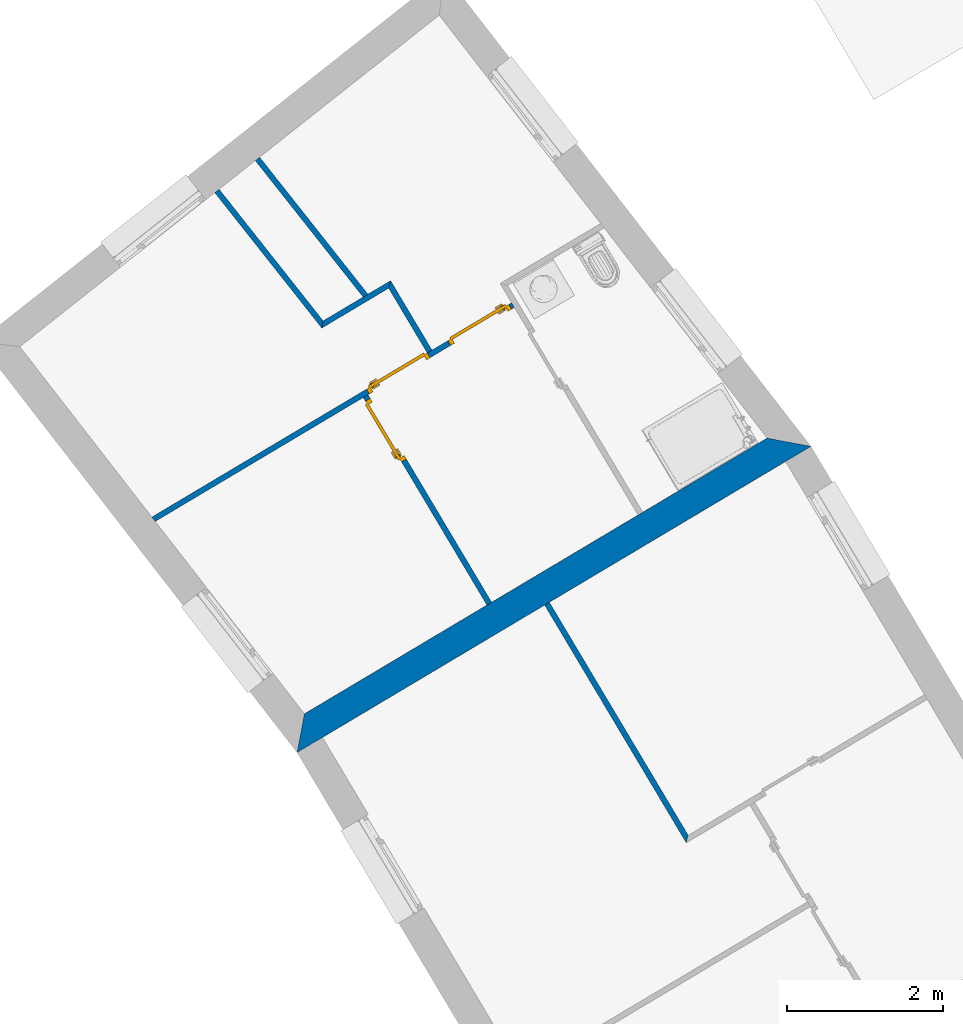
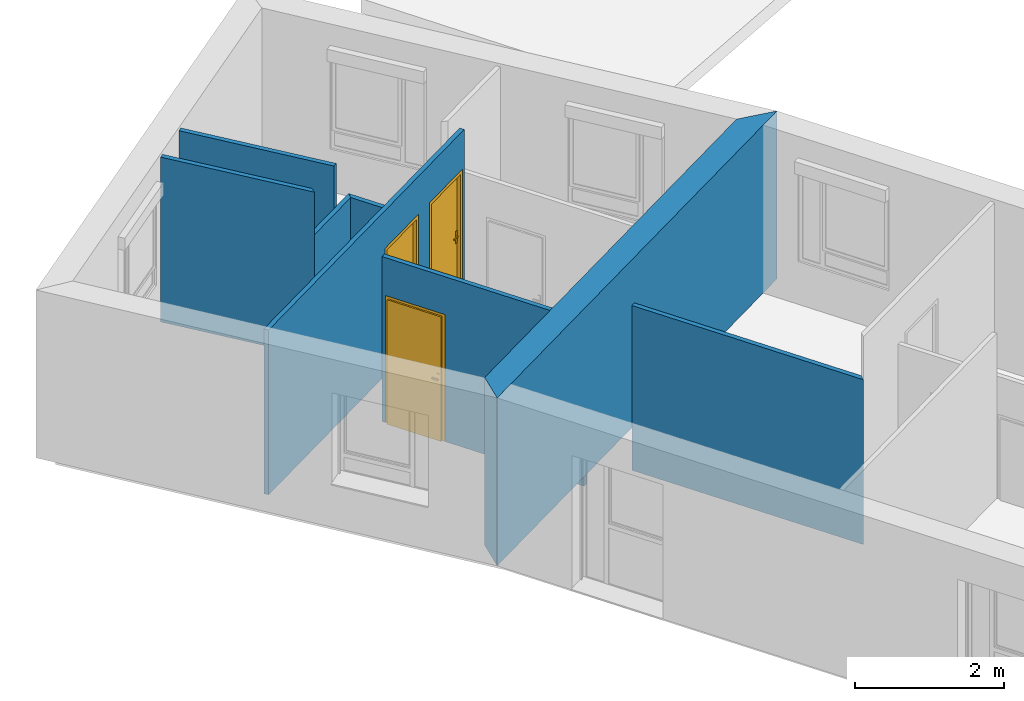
# One storey, part 41 of 121: 8 walls, 3 doors, 3 openings.
"""IFC2X3 building model written with IfcOpenShell, lengths in metres."""

from ifc_helpers import new_model, entity, si_unit, converted_unit, derived_unit, money_unit, direction, frame, origin_with_axes, origin_2d_with_axis, place, context, subcontext, project, spatial, polyline, rectangle, outline, extrude, faceted_brep, source, transform, mapped, material, layer, layer_set, layer_usage, type_object, element, fill, save


model = new_model("IFC2X3")

# Units and contexts
model_context = context("Model", 3, precision=1e-05, world=origin_with_axes(), true_north=direction((0.0, 1.0)))
body_context = subcontext(model_context, "Body", "Model", "MODEL_VIEW")
ifc_project = project(units=[si_unit("LENGTHUNIT", "METRE"), si_unit("AREAUNIT", "SQUARE_METRE"), si_unit("VOLUMEUNIT", "CUBIC_METRE"), converted_unit("PLANEANGLEUNIT", "DEGREE", entity("IfcPlaneAngleMeasure", 0.0174532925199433), si_unit("PLANEANGLEUNIT", "RADIAN"), dimensions=[0, 0, 0, 0, 0, 0, 0]), money_unit("CHF"), converted_unit("TIMEUNIT", "Year", entity("IfcTimeMeasure", 31557600.0), si_unit("TIMEUNIT", "SECOND"), dimensions=[0, 0, 1, 0, 0, 0, 0]), si_unit("MASSUNIT", "GRAM", prefix="KILO"), si_unit("THERMODYNAMICTEMPERATUREUNIT", "DEGREE_CELSIUS"), si_unit("LUMINOUSINTENSITYUNIT", "LUMEN"), si_unit("ENERGYUNIT", "JOULE", prefix="MEGA"), derived_unit("THERMALCONDUCTANCEUNIT", [(si_unit("POWERUNIT", "WATT"), 1), (si_unit("LENGTHUNIT", "METRE"), -1), (si_unit("THERMODYNAMICTEMPERATUREUNIT", "KELVIN"), -1)]), derived_unit("SPECIFICHEATCAPACITYUNIT", [(si_unit("ENERGYUNIT", "JOULE"), 1), (si_unit("MASSUNIT", "GRAM", prefix="KILO"), -1), (si_unit("THERMODYNAMICTEMPERATUREUNIT", "KELVIN"), -1)]), derived_unit("MASSDENSITYUNIT", [(si_unit("MASSUNIT", "GRAM", prefix="KILO"), 1), (si_unit("VOLUMEUNIT", "CUBIC_METRE"), -1)])], contexts=[model_context])

# Site, building, storey
site_placement = place(None, origin_with_axes())
site = spatial("IfcSite", under=ifc_project, at=site_placement, Name="Site", CompositionType="ELEMENT")
building_placement = place(site_placement, origin_with_axes())
building = spatial("IfcBuilding", under=site, at=building_placement, Name="Bâtiment", CompositionType="ELEMENT")
storey_placement = place(building_placement, frame((0.0, 0.0, 2.75), z_axis=(0.0, 0.0, 1.0), x_axis=(1.0, 0.0, 0.0)))
storey = spatial("IfcBuildingStorey", under=building, at=storey_placement, Name="Etage 1", CompositionType="ELEMENT", Elevation=2.75)

# Wall, openings, doors
ifc_material_1 = material(Name="Hachure solide 268963992")
ifc_layer_1 = layer(ifc_material_1, 0.07, ventilated="UNKNOWN")
ifc_layer_set_1 = layer_set([ifc_layer_1], Name="Cloison 70 0826278243")
ifc_layer_usage_1 = layer_usage(ifc_layer_set_1, "AXIS2", "POSITIVE", 0.0)
wall_type_1 = type_object("IfcWallType", Name="Cloison 70 0826278243 70", PredefinedType="NOTDEFINED")
wall_1_placement = place(storey_placement, frame((9536.29459067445, -1044.430703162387, 57.7), z_axis=(0.0, 0.0, 1.0), x_axis=(0.8590867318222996, 0.5118300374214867, 0.0)))
wall_1 = element("IfcWallStandardCase", 1, at=wall_1_placement, inside=storey, type_object=wall_type_1, material=ifc_layer_usage_1, Name="Mur-150", context=body_context, shape_type="SweptSolid", body=[
    extrude(outline(polyline([(0.3828564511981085, 0.0), (5.757966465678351, 0.0), (5.757966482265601, 0.06999999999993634), (0.3742574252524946, 0.06999999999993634), (0.3828564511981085, 0.0)])), origin_with_axes(), (0.0, 0.0, 1.0), 2.7),
])
opening_1_placement = place(wall_1_placement, frame((4.041051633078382, 0.0, 0.0), z_axis=(0.0, 0.0, 1.0), x_axis=(1.0, 0.0, 0.0)))
opening_1 = element("IfcOpeningElement", 2, at=opening_1_placement, cuts=wall_1, Name="Por-304", context=body_context, shape_type="SweptSolid", body=[
    extrude(rectangle(XDim=0.9099999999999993, YDim=2.079999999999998, at=origin_2d_with_axis()), frame((0.0, -0.07000000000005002, 1.039999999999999), z_axis=(0.0, 1.0, 0.0), x_axis=(1.0, 0.0, 0.0)), (0.0, 0.0, 1.0), 0.14),
])
opening_2_placement = place(wall_1_placement, frame((5.260602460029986, 0.0, 0.0), z_axis=(0.0, 0.0, 1.0), x_axis=(1.0, 0.0, 0.0)))
opening_2 = element("IfcOpeningElement", 3, at=opening_2_placement, cuts=wall_1, Name="Por-304", context=body_context, shape_type="SweptSolid", body=[
    extrude(rectangle(XDim=0.9099999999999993, YDim=2.079999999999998, at=origin_2d_with_axis()), frame((0.0, -0.07000000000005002, 1.039999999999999), z_axis=(0.0, -1.0, 0.0), x_axis=(-1.0, 0.0, 0.0)), (0.0, 0.0, -1.0), 0.14),
])
door_style = type_object("IfcDoorStyle", Name="Porte_1v", ConstructionType="NOTDEFINED", OperationType="NOTDEFINED", ParameterTakesPrecedence=False, Sizeable=False)
shared_shape_1 = source(origin_with_axes(), body_context, "Body", "Brep", [
    faceted_brep([(0.455, 0.0, 0.0), (0.415, 0.0, 0.0), (0.415, 0.0, 2.04), (-0.415, 0.0, 2.04), (-0.415, 0.0, 0.0), (-0.455, 0.0, 0.0), (-0.455, 0.0, 2.08), (0.455, 0.0, 2.08), (0.455, -0.07, 0.0), (0.4, -0.07, 0.0), (0.4, -0.015, 0.0), (0.415, -0.015, 0.0), (0.415, -0.015, 2.04), (-0.415, -0.015, 2.04), (-0.415, -0.015, 0.0), (-0.4, -0.015, 0.0), (-0.4, -0.07, 0.0), (-0.455, -0.07, 0.0), (-0.455, -0.07, 2.08), (0.455, -0.07, 2.08), (-0.4, -0.07, 2.025), (0.4, -0.07, 2.025), (0.4, -0.015, 2.025), (-0.4, -0.015, 2.025)], [[[0, 1, 2, 3, 4, 5, 6, 7]], [[0, 8, 9, 10, 11, 1]], [[1, 11, 12, 2]], [[2, 12, 13, 3]], [[3, 13, 14, 4]], [[5, 4, 14, 15, 16, 17]], [[18, 6, 5, 17]], [[19, 7, 6, 18]], [[8, 0, 7, 19]], [[9, 8, 19, 18, 17, 16, 20, 21]], [[10, 9, 21, 22]], [[11, 10, 22, 23, 15, 14, 13, 12]], [[23, 20, 16, 15]], [[22, 21, 20, 23]]]),
    faceted_brep([(-0.35, -0.015, 0.9), (-0.39, -0.015, 0.9), (-0.39, -0.015, 1.1), (-0.35, -0.015, 1.1), (-0.35, -0.025, 0.9), (-0.39, -0.025, 0.9), (-0.39, -0.025, 1.1), (-0.35, -0.025, 1.1)], [[[0, 1, 2, 3]], [[1, 0, 4, 5]], [[2, 1, 5, 6]], [[3, 2, 6, 7]], [[0, 3, 7, 4]], [[5, 4, 7, 6]]]),
    faceted_brep([(-0.28, -0.025, 1.0), (-0.38, -0.025, 1.0), (-0.38, -0.025, 1.02), (-0.28, -0.025, 1.02), (-0.28, -0.045, 1.0), (-0.38, -0.045, 1.0), (-0.38, -0.045, 1.02), (-0.28, -0.045, 1.02)], [[[0, 1, 2, 3]], [[1, 0, 4, 5]], [[2, 1, 5, 6]], [[3, 2, 6, 7]], [[0, 3, 7, 4]], [[5, 4, 7, 6]]]),
    faceted_brep([(-0.35, 0.035, 0.9), (-0.39, 0.035, 0.9), (-0.39, 0.035, 1.1), (-0.35, 0.035, 1.1), (-0.35, 0.025, 0.9), (-0.39, 0.025, 0.9), (-0.39, 0.025, 1.1), (-0.35, 0.025, 1.1)], [[[0, 1, 2, 3]], [[1, 0, 4, 5]], [[2, 1, 5, 6]], [[3, 2, 6, 7]], [[0, 3, 7, 4]], [[5, 4, 7, 6]]]),
    faceted_brep([(-0.28, 0.05500000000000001, 1.0), (-0.38, 0.05500000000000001, 1.0), (-0.38, 0.05500000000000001, 1.02), (-0.28, 0.05500000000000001, 1.02), (-0.28, 0.035, 1.0), (-0.38, 0.035, 1.0), (-0.38, 0.035, 1.02), (-0.28, 0.035, 1.02)], [[[0, 1, 2, 3]], [[1, 0, 4, 5]], [[2, 1, 5, 6]], [[3, 2, 6, 7]], [[0, 3, 7, 4]], [[5, 4, 7, 6]]]),
    faceted_brep([(-0.415, 0.025, 0.0), (0.415, 0.025, 0.0), (0.415, -0.015, 0.0), (-0.415, -0.015, 0.0), (-0.415, 0.025, 2.04), (0.415, 0.025, 2.04), (0.415, -0.015, 2.04), (-0.415, -0.015, 2.04)], [[[0, 1, 2, 3]], [[0, 4, 5, 1]], [[1, 5, 6, 2]], [[3, 2, 6, 7]], [[4, 0, 3, 7]], [[5, 4, 7, 6]]]),
])
door_1_placement = place(opening_1_placement, frame((-0.4149999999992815, 0.0, 0.0), z_axis=(0.0, 0.0, 1.0), x_axis=(1.0, 0.0, 0.0)))
door_1 = element("IfcDoor", 4, at=door_1_placement, inside=storey, type_object=door_style, Name="Por-304", OverallHeight=2.04, OverallWidth=0.83, context=body_context, shape_type="MappedRepresentation", body=[
    mapped(shared_shape_1, transform((0.4150000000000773, 0.06999999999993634, 0.0))),
])
fill(opening_1, door_1)
shared_shape_2 = source(origin_with_axes(), body_context, "Body", "Brep", [
    faceted_brep([(-0.455, 0.0, 0.0), (-0.455, 0.0, 2.08), (0.455, 0.0, 2.08), (0.455, 0.0, 0.0), (0.415, 0.0, 0.0), (0.415, 0.0, 2.04), (-0.415, 0.0, 2.04), (-0.415, 0.0, 0.0), (-0.455, -0.07, 0.0), (-0.455, -0.07, 2.08), (0.455, -0.07, 2.08), (0.455, -0.07, 0.0), (0.4, -0.07, 0.0), (0.4, -0.015, 0.0), (0.415, -0.015, 0.0), (0.415, -0.015, 2.04), (-0.415, -0.015, 2.04), (-0.415, -0.015, 0.0), (-0.4, -0.015, 0.0), (-0.4, -0.07, 0.0), (-0.4, -0.07, 2.025), (0.4, -0.07, 2.025), (0.4, -0.015, 2.025), (-0.4, -0.015, 2.025)], [[[0, 1, 2, 3, 4, 5, 6, 7]], [[8, 9, 1, 0]], [[9, 10, 2, 1]], [[10, 11, 3, 2]], [[3, 11, 12, 13, 14, 4]], [[5, 4, 14, 15]], [[6, 5, 15, 16]], [[7, 6, 16, 17]], [[0, 7, 17, 18, 19, 8]], [[19, 20, 21, 12, 11, 10, 9, 8]], [[22, 13, 12, 21]], [[17, 16, 15, 14, 13, 22, 23, 18]], [[18, 23, 20, 19]], [[23, 22, 21, 20]]]),
    faceted_brep([(0.35, -0.015, 0.9), (0.35, -0.015, 1.1), (0.39, -0.015, 1.1), (0.39, -0.015, 0.9), (0.35, -0.025, 0.9), (0.35, -0.025, 1.1), (0.39, -0.025, 1.1), (0.39, -0.025, 0.9)], [[[0, 1, 2, 3]], [[0, 4, 5, 1]], [[1, 5, 6, 2]], [[2, 6, 7, 3]], [[3, 7, 4, 0]], [[7, 6, 5, 4]]]),
    faceted_brep([(0.28, -0.025, 1.0), (0.28, -0.025, 1.02), (0.38, -0.025, 1.02), (0.38, -0.025, 1.0), (0.28, -0.045, 1.0), (0.28, -0.045, 1.02), (0.38, -0.045, 1.02), (0.38, -0.045, 1.0)], [[[0, 1, 2, 3]], [[0, 4, 5, 1]], [[1, 5, 6, 2]], [[2, 6, 7, 3]], [[3, 7, 4, 0]], [[7, 6, 5, 4]]]),
    faceted_brep([(0.35, 0.035, 0.9), (0.35, 0.035, 1.1), (0.39, 0.035, 1.1), (0.39, 0.035, 0.9), (0.35, 0.025, 0.9), (0.35, 0.025, 1.1), (0.39, 0.025, 1.1), (0.39, 0.025, 0.9)], [[[0, 1, 2, 3]], [[0, 4, 5, 1]], [[1, 5, 6, 2]], [[2, 6, 7, 3]], [[3, 7, 4, 0]], [[7, 6, 5, 4]]]),
    faceted_brep([(0.28, 0.05500000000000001, 1.0), (0.28, 0.05500000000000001, 1.02), (0.38, 0.05500000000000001, 1.02), (0.38, 0.05500000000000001, 1.0), (0.28, 0.035, 1.0), (0.28, 0.035, 1.02), (0.38, 0.035, 1.02), (0.38, 0.035, 1.0)], [[[0, 1, 2, 3]], [[0, 4, 5, 1]], [[1, 5, 6, 2]], [[2, 6, 7, 3]], [[3, 7, 4, 0]], [[7, 6, 5, 4]]]),
    faceted_brep([(0.415, 0.025, 0.0), (0.415, -0.015, 0.0), (-0.415, -0.015, 0.0), (-0.415, 0.025, 0.0), (0.415, 0.025, 2.04), (0.415, -0.015, 2.04), (-0.415, -0.015, 2.04), (-0.415, 0.025, 2.04)], [[[0, 1, 2, 3]], [[4, 5, 1, 0]], [[1, 5, 6, 2]], [[3, 2, 6, 7]], [[0, 3, 7, 4]], [[7, 6, 5, 4]]]),
])
door_2_placement = place(opening_2_placement, frame((-0.4149999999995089, 0.0, 0.0), z_axis=(0.0, 0.0, 1.0), x_axis=(1.0, 0.0, 0.0)))
door_2 = element("IfcDoor", 5, at=door_2_placement, inside=storey, type_object=door_style, Name="Por-304", OverallHeight=2.04, OverallWidth=0.83, context=body_context, shape_type="MappedRepresentation", body=[
    mapped(shared_shape_2, transform((0.4150000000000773, 0.06999999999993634, 0.0))),
])
fill(opening_2, door_2)

# Walls
ifc_layer_usage_2 = layer_usage(ifc_layer_set_1, "AXIS2", "NEGATIVE", 0.0)
wall_2_placement = place(storey_placement, frame((9539.685075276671, -1041.20046772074, 57.0), z_axis=(0.0, 0.0, 1.0), x_axis=(-0.8590868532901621, -0.5118298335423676, 0.0)))
element("IfcWallStandardCase", 6, at=wall_2_placement, inside=storey, type_object=wall_type_1, material=ifc_layer_usage_2, Name="Mur-150", context=body_context, shape_type="SweptSolid", body=[
    extrude(outline(polyline([(0.0, -0.06999999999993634), (1.009260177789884, -0.06999999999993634), (1.070609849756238, 0.0), (0.06999999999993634, 0.0), (0.0, -0.06999999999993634)])), origin_with_axes(), (0.0, 0.0, 1.0), 2.7),
])
ifc_layer_usage_3 = layer_usage(ifc_layer_set_1, "AXIS2", "NEGATIVE", 0.0)
wall_3_placement = place(storey_placement, frame((9537.208354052, -1039.665603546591, 57.7), z_axis=(0.0, 0.0, 1.0), x_axis=(0.6200747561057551, -0.7845427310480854, 0.0)))
element("IfcWallStandardCase", 7, at=wall_3_placement, inside=storey, type_object=wall_type_1, material=ifc_layer_usage_3, Name="Mur-150", context=body_context, shape_type="SweptSolid", body=[
    extrude(outline(polyline([(0.3799999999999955, -0.06999999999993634), (2.599512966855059, -0.07000000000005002), (2.538163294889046, 0.0), (0.3800000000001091, 0.0), (0.3799999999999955, -0.06999999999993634)])), origin_with_axes(), (0.0, 0.0, 1.0), 2.7),
])
ifc_layer_usage_4 = layer_usage(ifc_layer_set_1, "AXIS2", "NEGATIVE", 0.0)
wall_4_placement = place(storey_placement, frame((9539.685075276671, -1041.20046772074, 57.0), z_axis=(0.0, 0.0, 1.0), x_axis=(0.5118298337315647, -0.8590868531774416, 0.0)))
element("IfcWallStandardCase", 8, at=wall_4_placement, inside=storey, type_object=wall_type_1, material=ifc_layer_usage_4, Name="Mur-150", context=body_context, shape_type="SweptSolid", body=[
    extrude(outline(polyline([(0.0, -0.07000000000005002), (0.9697005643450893, -0.07000000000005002), (0.9697005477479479, 0.0), (-0.07000000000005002, 0.0), (0.0, -0.07000000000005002)])), origin_with_axes(), (0.0, 0.0, 1.0), 2.7),
])

# Wall, opening, door
ifc_layer_usage_5 = layer_usage(ifc_layer_set_1, "AXIS2", "NEGATIVE", 0.0)
wall_5_placement = place(storey_placement, frame((9539.358138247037, -1042.605490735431, 57.0), z_axis=(0.0, 0.0, 1.0), x_axis=(0.5118298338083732, -0.8590868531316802, 0.0)))
wall_5 = element("IfcWallStandardCase", 9, at=wall_5_placement, inside=storey, type_object=wall_type_1, material=ifc_layer_usage_5, Name="Mur-150", context=body_context, shape_type="SweptSolid", body=[
    extrude(outline(polyline([(1.266262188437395e-07, -0.07000000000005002), (3.105975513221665, -0.07000000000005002), (3.105975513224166, 0.0), (1.100354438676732e-07, 0.0), (1.266262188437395e-07, -0.07000000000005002)])), origin_with_axes(), (0.0, 0.0, 1.0), 2.7),
])
opening_3_placement = place(wall_5_placement, frame((0.5100591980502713, 0.0, 0.0), z_axis=(0.0, 0.0, 1.0), x_axis=(1.0, 0.0, 0.0)))
opening_3 = element("IfcOpeningElement", 10, at=opening_3_placement, cuts=wall_5, Name="Por-302", context=body_context, shape_type="SweptSolid", body=[
    extrude(rectangle(XDim=0.9099999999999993, YDim=2.079999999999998, at=origin_2d_with_axis()), frame((0.0, 0.07000000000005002, 1.039999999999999), z_axis=(0.0, -1.0, 0.0), x_axis=(-1.0, 0.0, 0.0)), (0.0, 0.0, 1.0), 0.14),
])
door_3_placement = place(opening_3_placement, frame((0.415000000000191, 0.0, 0.0), z_axis=(0.0, 0.0, 1.0), x_axis=(-1.0, 0.0, 0.0)))
door_3 = element("IfcDoor", 11, at=door_3_placement, inside=storey, type_object=door_style, Name="Por-302", OverallHeight=2.04, OverallWidth=0.83, context=body_context, shape_type="MappedRepresentation", body=[
    mapped(shared_shape_1, transform((0.4149999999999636, 0.07000000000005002, 0.0))),
])
fill(opening_3, door_3)

# Walls
ifc_layer_usage_6 = layer_usage(ifc_layer_set_1, "AXIS2", "NEGATIVE", 0.0)
wall_6_placement = place(storey_placement, frame((9537.729457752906, -1039.253741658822, 57.7), z_axis=(0.0, 0.0, 1.0), x_axis=(0.6200747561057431, -0.7845427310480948, 0.0)))
element("IfcWallStandardCase", 12, at=wall_6_placement, inside=storey, type_object=wall_type_1, material=ifc_layer_usage_6, Name="Mur-150", context=body_context, shape_type="SweptSolid", body=[
    extrude(outline(polyline([(0.3799999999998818, -0.07000000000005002), (2.616770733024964, -0.06999999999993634), (2.626030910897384, 0.0), (0.3799999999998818, 0.0), (0.3799999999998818, -0.07000000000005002)])), origin_with_axes(), (0.0, 0.0, 1.0), 2.7),
])
ifc_layer_usage_7 = layer_usage(ifc_layer_set_1, "AXIS2", "NEGATIVE", 0.0)
wall_7_placement = place(storey_placement, frame((9541.689946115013, -1045.274006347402, 57.0), z_axis=(0.0, 0.0, 1.0), x_axis=(0.5118298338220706, -0.8590868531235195, 0.0)))
element("IfcWallStandardCase", 13, at=wall_7_placement, inside=storey, type_object=wall_type_1, material=ifc_layer_usage_7, Name="Mur-150", context=body_context, shape_type="SweptSolid", body=[
    extrude(outline(polyline([(0.0, -0.07000000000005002), (3.55802702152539, -0.07000000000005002), (3.488027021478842, 0.0), (0.0, 0.0), (0.0, -0.07000000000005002)])), origin_with_axes(), (0.0, 0.0, 1.0), 2.7),
])
ifc_material_2 = material(Name="Parpaing 312445824")
ifc_layer_2 = layer(ifc_material_2, 0.22, ventilated="UNKNOWN")
ifc_material_3 = material(Name="Isolant styromousse 301821074")
ifc_layer_3 = layer(ifc_material_3, 0.16, ventilated="UNKNOWN")
ifc_layer_set_2 = layer_set([ifc_layer_2, ifc_layer_3], Name="isol int 22+16 0836643197")
ifc_layer_usage_8 = layer_usage(ifc_layer_set_2, "AXIS2", "POSITIVE", 0.0)
wall_type_2 = type_object("IfcWallType", Name="isol int 22+16 0836643197 380", PredefinedType="NOTDEFINED")
wall_8_placement = place(storey_placement, frame((9538.44670253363, -1047.206277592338, 57.7), z_axis=(0.0, 0.0, 1.0), x_axis=(0.8590868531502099, 0.5118298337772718, 0.0)))
element("IfcWallStandardCase", 14, at=wall_8_placement, inside=storey, type_object=wall_type_2, material=ifc_layer_usage_8, Name="Mur-113", context=body_context, shape_type="SweptSolid", body=[
    extrude(outline(polyline([(-1.004991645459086e-10, 0.0), (7.691113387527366, 0.0), (7.26150086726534, 0.3799999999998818), (0.3361759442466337, 0.3799999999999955), (-1.004991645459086e-10, 0.0)])), origin_with_axes(), (0.0, 0.0, 1.0), 2.75),
])

save(model, "model.ifc")
